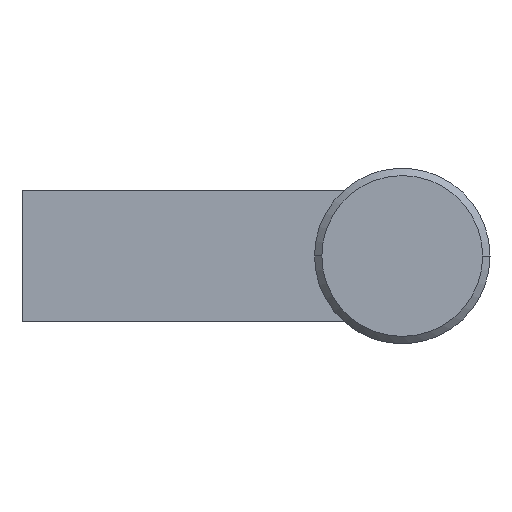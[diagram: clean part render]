
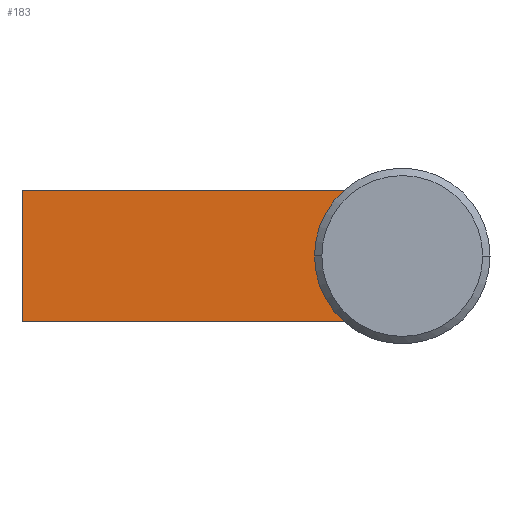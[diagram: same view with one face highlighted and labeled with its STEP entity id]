
A CAD part, left-side view. The second image highlights one B-rep face of the part: STEP entity #183.
In plain terms, the highlighted planar face has unit normal (-1, 0, 0).
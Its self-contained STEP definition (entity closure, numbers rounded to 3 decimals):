
#157 = EDGE_CURVE( '', #301, #219, #402, .T. );
#183 = ADVANCED_FACE( '', ( #430 ), #431, .F. );
#219 = VERTEX_POINT( '', #469 );
#251 = VERTEX_POINT( '', #508 );
#257 = VERTEX_POINT( '', #514 );
#263 = EDGE_CURVE( '', #279, #251, #521, .T. );
#279 = VERTEX_POINT( '', #539 );
#283 = EDGE_CURVE( '', #219, #257, #544, .T. );
#301 = VERTEX_POINT( '', #562 );
#345 = EDGE_CURVE( '', #257, #251, #612, .T. );
#361 = EDGE_CURVE( '', #301, #279, #629, .T. );
#402 = LINE( '', #669, #670 );
#430 = FACE_OUTER_BOUND( '', #707, .T. );
#431 = PLANE( '', #708 );
#469 = CARTESIAN_POINT( '', ( -10.5, 0., -4.5 ) );
#508 = CARTESIAN_POINT( '', ( -10.5, -22.031, 4.5 ) );
#514 = CARTESIAN_POINT( '', ( -10.5, 0., 4.5 ) );
#521 = CIRCLE( '', #827, 6. );
#539 = CARTESIAN_POINT( '', ( -10.5, -20., 0. ) );
#544 = LINE( '', #857, #858 );
#562 = CARTESIAN_POINT( '', ( -10.5, -22.031, -4.5 ) );
#612 = LINE( '', #949, #950 );
#629 = CIRCLE( '', #970, 6. );
#669 = CARTESIAN_POINT( '', ( -10.5, -22.031, -4.5 ) );
#670 = VECTOR( '', #1008, 1. );
#707 = EDGE_LOOP( '', ( #1038, #1039, #1040, #1041, #1042 ) );
#708 = AXIS2_PLACEMENT_3D( '', #1043, #1044, #1045 );
#827 = AXIS2_PLACEMENT_3D( '', #1152, #1153, #1154 );
#857 = CARTESIAN_POINT( '', ( -10.5, 0., -4.5 ) );
#858 = VECTOR( '', #1186, 1. );
#949 = CARTESIAN_POINT( '', ( -10.5, 0., 4.5 ) );
#950 = VECTOR( '', #1260, 1. );
#970 = AXIS2_PLACEMENT_3D( '', #1276, #1277, #1278 );
#1008 = DIRECTION( '', ( 0., 1., 0. ) );
#1038 = ORIENTED_EDGE( '', *, *, #157, .F. );
#1039 = ORIENTED_EDGE( '', *, *, #361, .T. );
#1040 = ORIENTED_EDGE( '', *, *, #263, .T. );
#1041 = ORIENTED_EDGE( '', *, *, #345, .F. );
#1042 = ORIENTED_EDGE( '', *, *, #283, .F. );
#1043 = CARTESIAN_POINT( '', ( -10.5, 0., 0. ) );
#1044 = DIRECTION( '', ( 1., 0., 0. ) );
#1045 = DIRECTION( '', ( 0., 0., -1. ) );
#1152 = CARTESIAN_POINT( '', ( -10.5, -26., 0. ) );
#1153 = DIRECTION( '', ( 1., 0., 0. ) );
#1154 = DIRECTION( '', ( 0., -1., 0. ) );
#1186 = DIRECTION( '', ( 0., 0., 1. ) );
#1260 = DIRECTION( '', ( 0., -1., 0. ) );
#1276 = CARTESIAN_POINT( '', ( -10.5, -26., 0. ) );
#1277 = DIRECTION( '', ( 1., 0., 0. ) );
#1278 = DIRECTION( '', ( 0., -1., 0. ) );
